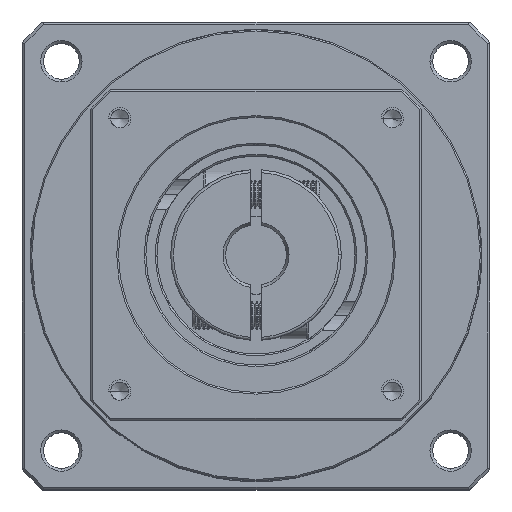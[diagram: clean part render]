
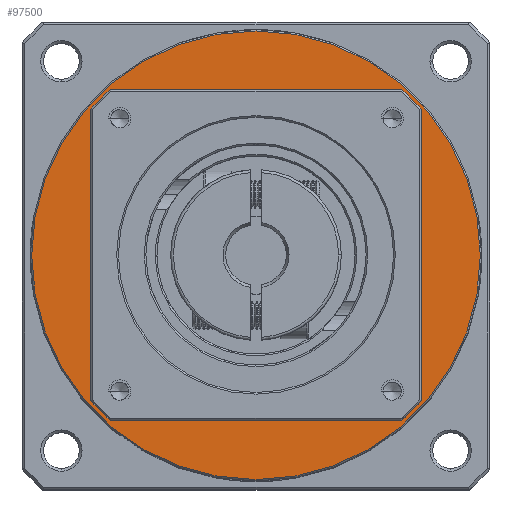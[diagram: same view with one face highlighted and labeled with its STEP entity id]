
A CAD part, top view. The second image highlights one B-rep face of the part: STEP entity #97500.
In plain terms, the highlighted planar face has unit normal (0, 0, 1).
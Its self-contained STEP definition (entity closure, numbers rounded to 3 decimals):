
#1849 = CARTESIAN_POINT ( 'NONE',  ( -64.087, 20.095, -26.151 ) ) ;
#2173 = DIRECTION ( 'NONE',  ( 0., 0., -1. ) ) ;
#2426 = DIRECTION ( 'NONE',  ( 1., 0., 0. ) ) ;
#4027 = CARTESIAN_POINT ( 'NONE',  ( -64.087, 20.095, -26.151 ) ) ;
#10730 = DIRECTION ( 'NONE',  ( -1., 0., 0. ) ) ;
#12890 = DIRECTION ( 'NONE',  ( -1., 0., 0. ) ) ;
#22440 = CARTESIAN_POINT ( 'NONE',  ( -64.087, 20.095, -26.151 ) ) ;
#23021 = ORIENTED_EDGE ( 'NONE', *, *, #111893, .F. ) ;
#23603 = EDGE_CURVE ( 'NONE', #27079, #89568, #67732, .T. ) ;
#27079 = VERTEX_POINT ( 'NONE', #109121 ) ;
#28714 = CARTESIAN_POINT ( 'NONE',  ( -104.837, 20.095, -26.151 ) ) ;
#31333 = DIRECTION ( 'NONE',  ( -1., 0., 0. ) ) ;
#34057 = CIRCLE ( 'NONE', #111766, 30. ) ;
#37494 = FACE_OUTER_BOUND ( 'NONE', #107849, .T. ) ;
#39176 = ORIENTED_EDGE ( 'NONE', *, *, #84869, .T. ) ;
#55257 = CARTESIAN_POINT ( 'NONE',  ( -64.087, 20.095, -26.151 ) ) ;
#55491 = DIRECTION ( 'NONE',  ( 0., 0., 1. ) ) ;
#60646 = VERTEX_POINT ( 'NONE', #87809 ) ;
#63785 = DIRECTION ( 'NONE',  ( 0., 0., -1. ) ) ;
#64123 = DIRECTION ( 'NONE',  ( -1., 0., 0. ) ) ;
#65019 = CIRCLE ( 'NONE', #75421, 40.75 ) ;
#65985 = DIRECTION ( 'NONE',  ( 0., 0., -1. ) ) ;
#67732 = CIRCLE ( 'NONE', #86637, 40.75 ) ;
#69819 = EDGE_LOOP ( 'NONE', ( #39176, #110036 ) ) ;
#72840 = PLANE ( 'NONE',  #111956 ) ;
#73360 = CARTESIAN_POINT ( 'NONE',  ( -94.087, 20.095, -26.151 ) ) ;
#73946 = VERTEX_POINT ( 'NONE', #73360 ) ;
#75421 = AXIS2_PLACEMENT_3D ( 'NONE', #22440, #84293, #31333 ) ;
#77624 = ORIENTED_EDGE ( 'NONE', *, *, #23603, .F. ) ;
#80148 = EDGE_CURVE ( 'NONE', #60646, #73946, #34057, .T. ) ;
#84293 = DIRECTION ( 'NONE',  ( 0., 0., -1. ) ) ;
#84869 = EDGE_CURVE ( 'NONE', #73946, #60646, #90861, .T. ) ;
#86637 = AXIS2_PLACEMENT_3D ( 'NONE', #4027, #65985, #12890 ) ;
#87214 = FACE_BOUND ( 'NONE', #69819, .T. ) ;
#87809 = CARTESIAN_POINT ( 'NONE',  ( -34.087, 20.095, -26.151 ) ) ;
#89568 = VERTEX_POINT ( 'NONE', #28714 ) ;
#90861 = CIRCLE ( 'NONE', #100653, 30. ) ;
#97500 = ADVANCED_FACE ( 'NONE', ( #37494, #87214 ), #72840, .T. ) ;
#100653 = AXIS2_PLACEMENT_3D ( 'NONE', #1849, #63785, #10730 ) ;
#107849 = EDGE_LOOP ( 'NONE', ( #23021, #77624 ) ) ;
#108189 = CARTESIAN_POINT ( 'NONE',  ( -64.087, 20.095, -26.151 ) ) ;
#109121 = CARTESIAN_POINT ( 'NONE',  ( -23.337, 20.095, -26.151 ) ) ;
#110036 = ORIENTED_EDGE ( 'NONE', *, *, #80148, .T. ) ;
#111766 = AXIS2_PLACEMENT_3D ( 'NONE', #55257, #2173, #64123 ) ;
#111893 = EDGE_CURVE ( 'NONE', #89568, #27079, #65019, .T. ) ;
#111956 = AXIS2_PLACEMENT_3D ( 'NONE', #108189, #55491, #2426 ) ;
